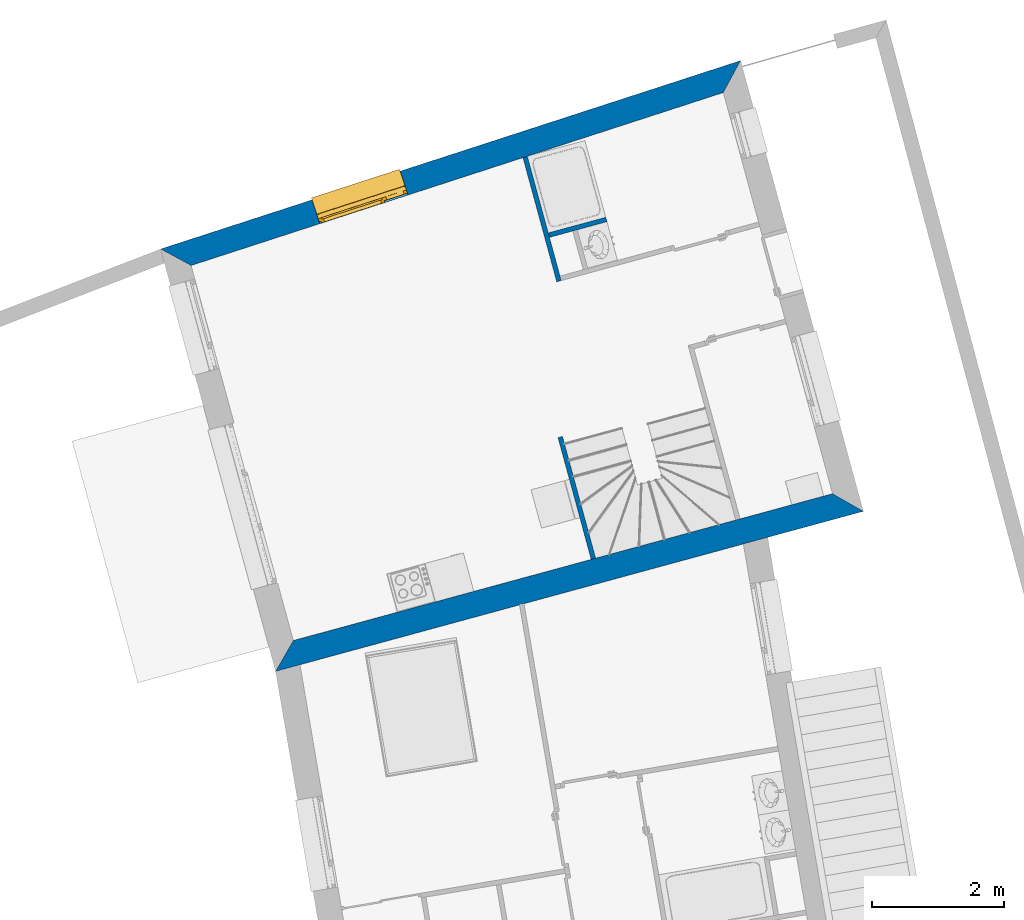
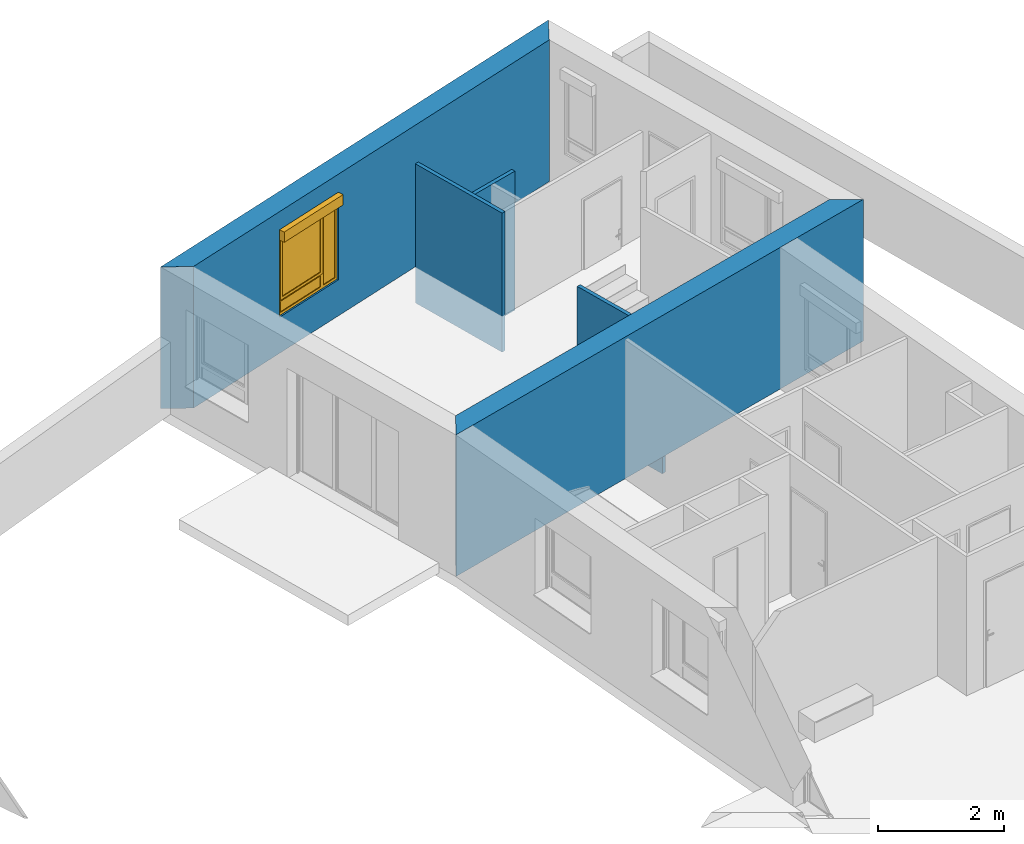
# One storey, part 94 of 195: 5 walls, 1 window, 1 opening.
"""IFC2X3 building model written with IfcOpenShell, lengths in metres."""

from ifc_helpers import new_model, entity, si_unit, converted_unit, derived_unit, money_unit, direction, frame, origin_with_axes, place, context, subcontext, project, spatial, polyline, outline, extrude, open_shell, faceted_brep, surface_model, source, transform, mapped, material, layer, layer_set, layer_usage, type_object, element, fill, save


model = new_model("IFC2X3")

# Units and contexts
model_context = context("Model", 3, precision=1e-05, world=origin_with_axes(), true_north=direction((0.0, 1.0)))
body_context = subcontext(model_context, "Body", "Model", "MODEL_VIEW")
ifc_project = project(units=[si_unit("LENGTHUNIT", "METRE"), si_unit("AREAUNIT", "SQUARE_METRE"), si_unit("VOLUMEUNIT", "CUBIC_METRE"), converted_unit("PLANEANGLEUNIT", "DEGREE", entity("IfcPlaneAngleMeasure", 0.0174532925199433), si_unit("PLANEANGLEUNIT", "RADIAN"), dimensions=[0, 0, 0, 0, 0, 0, 0]), money_unit("CHF"), converted_unit("TIMEUNIT", "Year", entity("IfcTimeMeasure", 31557600.0), si_unit("TIMEUNIT", "SECOND"), dimensions=[0, 0, 1, 0, 0, 0, 0]), si_unit("MASSUNIT", "GRAM", prefix="KILO"), si_unit("THERMODYNAMICTEMPERATUREUNIT", "DEGREE_CELSIUS"), si_unit("LUMINOUSINTENSITYUNIT", "LUMEN"), si_unit("ENERGYUNIT", "JOULE", prefix="MEGA"), derived_unit("THERMALCONDUCTANCEUNIT", [(si_unit("POWERUNIT", "WATT"), 1), (si_unit("LENGTHUNIT", "METRE"), -1), (si_unit("THERMODYNAMICTEMPERATUREUNIT", "KELVIN"), -1)]), derived_unit("SPECIFICHEATCAPACITYUNIT", [(si_unit("ENERGYUNIT", "JOULE"), 1), (si_unit("MASSUNIT", "GRAM", prefix="KILO"), -1), (si_unit("THERMODYNAMICTEMPERATUREUNIT", "KELVIN"), -1)]), derived_unit("MASSDENSITYUNIT", [(si_unit("MASSUNIT", "GRAM", prefix="KILO"), 1), (si_unit("VOLUMEUNIT", "CUBIC_METRE"), -1)])], contexts=[model_context])

# Site, building, storey
site_placement = place(None, origin_with_axes())
site = spatial("IfcSite", under=ifc_project, at=site_placement, Name="Site", CompositionType="ELEMENT")
building_placement = place(site_placement, origin_with_axes())
building = spatial("IfcBuilding", under=site, at=building_placement, Name="Bâtiment", CompositionType="ELEMENT")
storey_placement = place(building_placement, origin_with_axes())
storey = spatial("IfcBuildingStorey", under=building, at=storey_placement, Name="rdc", CompositionType="ELEMENT", Elevation=0.0)

# Walls
ifc_material_1 = material(Name="Hachure solide 268963992")
ifc_layer_1 = layer(ifc_material_1, 0.07, ventilated="UNKNOWN")
ifc_layer_set_1 = layer_set([ifc_layer_1], Name="Cloison 70 0826278243")
ifc_layer_usage_1 = layer_usage(ifc_layer_set_1, "AXIS2", "POSITIVE", 0.0)
wall_type_1 = type_object("IfcWallType", Name="Cloison 70 0826278243 70", PredefinedType="NOTDEFINED")
wall_1_placement = place(storey_placement, frame((9584.819619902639, -1016.182497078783, 57.0), z_axis=(0.0, 0.0, 1.0), x_axis=(-0.9648682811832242, -0.2627340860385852, 0.0)))
element("IfcWallStandardCase", 1, at=wall_1_placement, inside=storey, type_object=wall_type_1, material=ifc_layer_usage_1, Name="Mur-149", context=body_context, shape_type="SweptSolid", body=[
    extrude(outline(polyline([(0.0, 0.0), (0.8999999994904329, 0.0), (0.8999999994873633, 0.06999999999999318), (0.0, 0.06999999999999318), (0.0, 0.0)])), origin_with_axes(), (0.0, 0.0, 1.0), 2.7),
])
ifc_layer_usage_2 = layer_usage(ifc_layer_set_1, "AXIS2", "POSITIVE", 0.0)
wall_2_placement = place(storey_placement, frame((9584.147292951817, -1017.138951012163, 57.0), z_axis=(0.0, 0.0, 1.0), x_axis=(-0.2627340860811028, 0.9648682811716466, 0.0)))
element("IfcWallStandardCase", 2, at=wall_2_placement, inside=storey, type_object=wall_type_1, material=ifc_layer_usage_2, Name="Mur-149", context=body_context, shape_type="SweptSolid", body=[
    extrude(outline(polyline([(0.0, 0.0), (1.946208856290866, 0.0), (1.942824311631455, 0.07000000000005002), (0.0, 0.07000000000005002), (0.0, 0.0)])), origin_with_axes(), (0.0, 0.0, 1.0), 2.7),
])
ifc_layer_usage_3 = layer_usage(ifc_layer_set_1, "AXIS2", "NEGATIVE", 0.0)
wall_3_placement = place(storey_placement, frame((9584.166345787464, -1019.492598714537, 57.0), z_axis=(0.0, 0.0, 1.0), x_axis=(0.2627340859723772, -0.9648682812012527, 0.0)))
element("IfcWallStandardCase", 3, at=wall_3_placement, inside=storey, type_object=wall_type_1, material=ifc_layer_usage_3, Name="Mur-149", context=body_context, shape_type="SweptSolid", body=[
    extrude(outline(polyline([(0.0, -0.07000000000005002), (1.90668817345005, -0.07000000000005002), (1.906688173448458, 0.0), (0.0, 0.0), (0.0, -0.07000000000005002)])), origin_with_axes(), (0.0, 0.0, 1.0), 2.7),
])
ifc_material_2 = material(Name="Parpaing 312445824")
ifc_layer_2 = layer(ifc_material_2, 0.22, ventilated="UNKNOWN")
ifc_material_3 = material(Name="Isolant styromousse 301821074")
ifc_layer_3 = layer(ifc_material_3, 0.16, ventilated="UNKNOWN")
ifc_layer_set_2 = layer_set([ifc_layer_2, ifc_layer_3], Name="isol int 22+16 0836643197")
ifc_layer_usage_4 = layer_usage(ifc_layer_set_2, "AXIS2", "NEGATIVE", 0.0)
wall_type_2 = type_object("IfcWallType", Name="isol int 22+16 0836643197 380", PredefinedType="NOTDEFINED")
wall_4_placement = place(storey_placement, frame((9588.712435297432, -1020.624644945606, 57.7), z_axis=(0.0, 0.0, 1.0), x_axis=(-0.9648682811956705, -0.2627340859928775, 0.0)))
element("IfcWallStandardCase", 4, at=wall_4_placement, inside=storey, type_object=wall_type_2, material=ifc_layer_usage_4, Name="Mur-113", context=body_context, shape_type="SweptSolid", body=[
    extrude(outline(polyline([(0.379999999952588, -0.3799999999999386), (8.823564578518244, -0.3799999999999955), (9.203564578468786, 0.0), (0.0, 0.0), (0.379999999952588, -0.3799999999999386)])), origin_with_axes(), (0.0, 0.0, 1.0), 2.75),
])

# Wall, opening, window
ifc_layer_usage_5 = layer_usage(ifc_layer_set_2, "AXIS2", "POSITIVE", 0.0)
wall_5_placement = place(storey_placement, frame((9586.85805817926, -1013.814604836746, 57.7), z_axis=(0.0, 0.0, 1.0), x_axis=(-0.951053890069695, -0.3090250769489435, 0.0)))
wall_5 = element("IfcWallStandardCase", 5, at=wall_5_placement, inside=storey, type_object=wall_type_2, material=ifc_layer_usage_5, Name="Mur-113", context=body_context, shape_type="SweptSolid", body=[
    extrude(outline(polyline([(0.0, 0.0), (9.214316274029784, 0.0), (8.852245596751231, 0.3799999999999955), (0.3988171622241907, 0.3799999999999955), (0.0, 0.0)])), origin_with_axes(), (0.0, 0.0, 1.0), 2.75),
])
opening_placement = place(wall_5_placement, frame((6.108138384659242, 0.0, 0.7000000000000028), z_axis=(0.0, 0.0, 1.0), x_axis=(1.0, 0.0, 0.0)))
opening = element("IfcOpeningElement", 6, at=opening_placement, cuts=wall_5, Name="Fen-045", context=body_context, shape_type="Brep", body=[
    faceted_brep([(-0.6999999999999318, 0.2999999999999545, 1.5), (-0.7000000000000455, 0.4799999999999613, 1.5), (-0.6999999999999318, 3.089082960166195, 1.5), (-0.6999999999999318, 3.089082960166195, 0.0), (-0.6999999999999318, 0.2999999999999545, 0.0), (-0.7000000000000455, 0.2199999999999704, 1.5), (-0.7000000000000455, 0.2199999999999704, 1.700000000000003), (-0.7000000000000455, 0.4799999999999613, 1.700000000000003), (0.7000000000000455, 0.4800000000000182, 1.5), (0.7000000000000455, 3.089082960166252, 1.5), (0.7000000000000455, 3.089082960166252, 0.0), (0.7000000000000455, 0.2999999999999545, 0.0), (-0.6999999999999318, -2.709082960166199, 0.0), (-0.6999999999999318, -2.709082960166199, 1.5), (0.7000000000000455, 0.2200000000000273, 1.5), (0.7000000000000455, 0.2200000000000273, 1.700000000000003), (0.7000000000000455, 0.4800000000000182, 1.700000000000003), (0.7000000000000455, 0.2999999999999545, 1.5), (0.7000000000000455, -2.709082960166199, 0.0), (0.7000000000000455, -2.709082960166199, 1.5)], [[[0, 1, 2, 3, 4]], [[1, 0, 5, 6, 7]], [[1, 8, 9, 2]], [[9, 10, 3, 2]], [[11, 4, 3, 10]], [[5, 0, 4, 12, 13]], [[5, 14, 15, 6]], [[7, 6, 15, 16]], [[8, 1, 7, 16]], [[8, 17, 11, 10, 9]], [[4, 11, 18, 12]], [[13, 12, 18, 19]], [[14, 5, 13, 19]], [[17, 8, 16, 15, 14]], [[17, 14, 19, 18, 11]]]),
])
window_style = type_object("IfcWindowStyle", Name="Fenêtre variable 27", ConstructionType="NOTDEFINED", OperationType="TRIPLE_PANEL_LEFT", ParameterTakesPrecedence=False, Sizeable=False)
shared_shape = source(origin_with_axes(), body_context, "Body", "SurfaceModel", [
    surface_model("IfcShellBasedSurfaceModel", [(0.7, -0.05100000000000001, 0.05), (-0.7, -0.05100000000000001, 0.05000000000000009), (-0.7, -0.05100000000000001, 0.04000000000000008), (0.7, -0.05100000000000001, 0.04), (-0.7, -0.3799999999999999, 0.02900000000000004), (0.7, -0.3799999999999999, 0.02899999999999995), (-0.7, -0.3799999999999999, 0.00900000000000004), (0.7, -0.3799999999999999, 0.008999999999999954), (-0.7, -0.3699999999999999, 0.01900000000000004), (0.7, -0.3699999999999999, 0.01899999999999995)], [open_shell([[[0, 1, 2, 3]], [[3, 2, 4, 5]], [[5, 4, 6, 7]], [[7, 6, 8, 9]]])]),
    faceted_brep([(0.7, -0.13, 1.7), (0.7, 0.13, 1.7), (0.697, 0.13, 1.7), (0.697, -0.13, 1.7), (0.7, -0.13, 1.5), (0.7, 0.13, 1.5), (0.697, 0.13, 1.5), (0.697, -0.13, 1.5)], [[[0, 1, 2, 3]], [[0, 4, 5, 1]], [[1, 5, 6, 2]], [[3, 2, 6, 7]], [[4, 0, 3, 7]], [[5, 4, 7, 6]]]),
    faceted_brep([(-0.6970000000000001, -0.1299999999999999, 1.7), (-0.6970000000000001, 0.1300000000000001, 1.7), (-0.7000000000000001, 0.1300000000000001, 1.7), (-0.7000000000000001, -0.1299999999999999, 1.7), (-0.6970000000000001, -0.1299999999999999, 1.5), (-0.6970000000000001, 0.1300000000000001, 1.5), (-0.7000000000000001, 0.1300000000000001, 1.5), (-0.7000000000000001, -0.1299999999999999, 1.5)], [[[0, 1, 2, 3]], [[0, 4, 5, 1]], [[1, 5, 6, 2]], [[3, 2, 6, 7]], [[4, 0, 3, 7]], [[5, 4, 7, 6]]]),
    faceted_brep([(0.697, -0.13, 1.5), (0.697, -0.13, 1.7), (-0.697, -0.1299999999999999, 1.7), (-0.697, -0.1299999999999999, 1.5), (0.697, -0.127, 1.5), (0.697, -0.127, 1.697), (0.697, 0.127, 1.697), (0.697, 0.127, 1.503), (0.697, -0.108, 1.503), (0.697, -0.108, 1.5), (0.697, 0.13, 1.5), (0.697, 0.13, 1.7), (-0.697, 0.1300000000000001, 1.7), (-0.697, 0.1300000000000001, 1.5), (-0.697, -0.1079999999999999, 1.5), (-0.697, -0.1079999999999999, 1.503), (-0.697, 0.1270000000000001, 1.503), (-0.697, 0.1270000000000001, 1.697), (-0.697, -0.1269999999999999, 1.697), (-0.697, -0.1269999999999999, 1.5)], [[[0, 1, 2, 3]], [[0, 4, 5, 6, 7, 8, 9, 10, 11, 1]], [[1, 11, 12, 2]], [[3, 2, 12, 13, 14, 15, 16, 17, 18, 19]], [[4, 0, 3, 19]], [[5, 4, 19, 18]], [[6, 5, 18, 17]], [[7, 6, 17, 16]], [[8, 7, 16, 15]], [[9, 8, 15, 14]], [[10, 9, 14, 13]], [[11, 10, 13, 12]]]),
    faceted_brep([(0.694, -0.08075423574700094, 1.585760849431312), (0.694, -0.07705479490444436, 1.571954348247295), (0.694, -0.07101408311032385, 1.559), (0.694, -0.06281564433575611, 1.547291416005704), (0.694, -0.05270858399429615, 1.537184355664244), (0.694, -0.04099999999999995, 1.528985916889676), (0.694, -0.02804565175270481, 1.522945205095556), (0.694, -0.01423915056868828, 1.519245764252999), (0.694, 0.0, 1.518), (0.694, 0.01423915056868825, 1.519245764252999), (0.694, 0.02804565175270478, 1.522945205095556), (0.694, 0.04099999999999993, 1.528985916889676), (0.694, 0.05270858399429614, 1.537184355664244), (0.694, 0.06281564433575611, 1.547291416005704), (0.694, 0.07101408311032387, 1.559), (0.694, 0.07705479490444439, 1.571954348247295), (0.694, 0.08075423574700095, 1.585760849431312), (0.694, 0.0819999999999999, 1.6), (0.694, 0.08075423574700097, 1.614239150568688), (0.694, 0.0770547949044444, 1.628045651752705), (0.694, 0.07101408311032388, 1.641), (0.694, 0.06281564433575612, 1.652708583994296), (0.694, 0.05270858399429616, 1.662815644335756), (0.694, 0.04099999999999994, 1.671014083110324), (0.694, 0.02804565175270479, 1.677054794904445), (0.694, 0.01423915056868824, 1.680754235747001), (0.694, 0.0, 1.682), (0.694, -0.01423915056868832, 1.680754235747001), (0.694, -0.02804565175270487, 1.677054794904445), (0.694, -0.04100000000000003, 1.671014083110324), (0.694, -0.05270858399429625, 1.662815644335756), (0.694, -0.06281564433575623, 1.652708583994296), (0.694, -0.07101408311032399, 1.641), (0.694, -0.07705479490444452, 1.628045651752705), (0.694, -0.0807542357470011, 1.614239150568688), (0.694, -0.08200000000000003, 1.6), (-0.694, -0.08075423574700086, 1.585760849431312), (-0.694, -0.07705479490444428, 1.571954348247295), (-0.694, -0.07101408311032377, 1.559), (-0.694, -0.06281564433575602, 1.547291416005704), (-0.694, -0.05270858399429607, 1.537184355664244), (-0.694, -0.04099999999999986, 1.528985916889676), (-0.694, -0.02804565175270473, 1.522945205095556), (-0.694, -0.0142391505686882, 1.519245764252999), (-0.694, 0.0, 1.518), (-0.694, 0.01423915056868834, 1.519245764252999), (-0.694, 0.02804565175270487, 1.522945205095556), (-0.694, 0.04100000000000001, 1.528985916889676), (-0.694, 0.05270858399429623, 1.537184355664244), (-0.694, 0.06281564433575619, 1.547291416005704), (-0.694, 0.07101408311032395, 1.559), (-0.694, 0.07705479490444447, 1.571954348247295), (-0.694, 0.08075423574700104, 1.585760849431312), (-0.694, 0.08199999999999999, 1.6), (-0.694, 0.08075423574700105, 1.614239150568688), (-0.694, 0.07705479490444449, 1.628045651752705), (-0.694, 0.07101408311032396, 1.641), (-0.694, 0.0628156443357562, 1.652708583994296), (-0.694, 0.05270858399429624, 1.662815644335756), (-0.694, 0.04100000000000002, 1.671014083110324), (-0.694, 0.02804565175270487, 1.677054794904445), (-0.694, 0.01423915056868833, 1.680754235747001), (-0.694, 0.0, 1.682), (-0.694, -0.01423915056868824, 1.680754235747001), (-0.694, -0.02804565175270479, 1.677054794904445), (-0.694, -0.04099999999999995, 1.671014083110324), (-0.694, -0.05270858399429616, 1.662815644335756), (-0.694, -0.06281564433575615, 1.652708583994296), (-0.694, -0.07101408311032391, 1.641), (-0.694, -0.07705479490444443, 1.628045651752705), (-0.694, -0.08075423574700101, 1.614239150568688), (-0.694, -0.08199999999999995, 1.6)], [[[0, 1, 2, 3, 4, 5, 6, 7, 8, 9, 10, 11, 12, 13, 14, 15, 16, 17, 18, 19, 20, 21, 22, 23, 24, 25, 26, 27, 28, 29, 30, 31, 32, 33, 34, 35]], [[1, 0, 36, 37]], [[2, 1, 37, 38]], [[3, 2, 38, 39]], [[4, 3, 39, 40]], [[5, 4, 40, 41]], [[6, 5, 41, 42]], [[7, 6, 42, 43]], [[8, 7, 43, 44]], [[9, 8, 44, 45]], [[10, 9, 45, 46]], [[11, 10, 46, 47]], [[12, 11, 47, 48]], [[13, 12, 48, 49]], [[14, 13, 49, 50]], [[15, 14, 50, 51]], [[16, 15, 51, 52]], [[17, 16, 52, 53]], [[18, 17, 53, 54]], [[19, 18, 54, 55]], [[20, 19, 55, 56]], [[21, 20, 56, 57]], [[22, 21, 57, 58]], [[23, 22, 58, 59]], [[24, 23, 59, 60]], [[25, 24, 60, 61]], [[26, 25, 61, 62]], [[27, 26, 62, 63]], [[28, 27, 63, 64]], [[29, 28, 64, 65]], [[30, 29, 65, 66]], [[31, 30, 66, 67]], [[32, 31, 67, 68]], [[33, 32, 68, 69]], [[34, 33, 69, 70]], [[35, 34, 70, 71]], [[0, 35, 71, 36]], [[36, 71, 70, 69, 68, 67, 66, 65, 64, 63, 62, 61, 60, 59, 58, 57, 56, 55, 54, 53, 52, 51, 50, 49, 48, 47, 46, 45, 44, 43, 42, 41, 40, 39, 38, 37]]]),
    faceted_brep([(-0.7, -0.105, 0.03), (-0.7, -0.13, 0.03), (-0.7, -0.1299999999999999, 1.5), (-0.7, -0.1049999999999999, 1.5), (-0.6749999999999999, -0.105, 0.03), (-0.6749999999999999, -0.108, 0.03), (-0.697, -0.108, 0.03), (-0.697, -0.127, 0.03), (-0.6749999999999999, -0.127, 0.03), (-0.6749999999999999, -0.13, 0.03), (-0.6749999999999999, -0.1299999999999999, 1.5), (-0.6749999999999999, -0.1269999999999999, 1.5), (-0.697, -0.1269999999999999, 1.5), (-0.697, -0.1079999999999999, 1.5), (-0.6749999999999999, -0.1079999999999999, 1.5), (-0.6749999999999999, -0.1049999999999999, 1.5)], [[[0, 1, 2, 3]], [[0, 4, 5, 6, 7, 8, 9, 1]], [[1, 9, 10, 2]], [[3, 2, 10, 11, 12, 13, 14, 15]], [[4, 0, 3, 15]], [[5, 4, 15, 14]], [[6, 5, 14, 13]], [[7, 6, 13, 12]], [[8, 7, 12, 11]], [[9, 8, 11, 10]]]),
    faceted_brep([(0.7, -0.105, 0.03), (0.7, -0.1049999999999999, 1.5), (0.7, -0.1299999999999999, 1.5), (0.7, -0.13, 0.03), (0.6749999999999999, -0.105, 0.03), (0.6749999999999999, -0.1049999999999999, 1.5), (0.6749999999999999, -0.1079999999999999, 1.5), (0.697, -0.1079999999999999, 1.5), (0.697, -0.1269999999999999, 1.5), (0.6749999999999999, -0.1269999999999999, 1.5), (0.6749999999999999, -0.1299999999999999, 1.5), (0.6749999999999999, -0.13, 0.03), (0.6749999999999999, -0.127, 0.03), (0.697, -0.127, 0.03), (0.697, -0.108, 0.03), (0.6749999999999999, -0.108, 0.03)], [[[0, 1, 2, 3]], [[4, 5, 1, 0]], [[1, 5, 6, 7, 8, 9, 10, 2]], [[3, 2, 10, 11]], [[0, 3, 11, 12, 13, 14, 15, 4]], [[15, 6, 5, 4]], [[14, 7, 6, 15]], [[13, 8, 7, 14]], [[12, 9, 8, 13]], [[11, 10, 9, 12]]]),
    surface_model("IfcShellBasedSurfaceModel", [(0.697, -0.115, 1.6), (-0.697, -0.1149999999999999, 1.6), (-0.697, -0.12, 1.6), (0.697, -0.12, 1.6), (0.697, -0.115, 1.6), (0.697, -0.12, 1.6), (-0.697, -0.1199999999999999, 1.6), (-0.697, -0.1149999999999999, 1.6)], [open_shell([[[0, 1, 2, 3]], [[4, 5, 6, 7]]])]),
    faceted_brep([(0.697, -0.115, 1.6), (0.697, -0.1166666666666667, 1.583333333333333), (-0.697, -0.1166666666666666, 1.583333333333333), (-0.697, -0.1149999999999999, 1.6), (0.697, -0.12, 1.6), (0.697, -0.1216666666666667, 1.583333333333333), (0.697, -0.1216666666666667, 1.566666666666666), (0.697, -0.12, 1.55), (0.697, -0.115, 1.55), (0.697, -0.1166666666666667, 1.566666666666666), (-0.697, -0.1166666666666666, 1.566666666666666), (-0.697, -0.1149999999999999, 1.55), (-0.697, -0.1199999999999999, 1.55), (-0.697, -0.1216666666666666, 1.566666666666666), (-0.697, -0.1216666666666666, 1.583333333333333), (-0.697, -0.1199999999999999, 1.6)], [[[0, 1, 2, 3]], [[0, 4, 5, 6, 7, 8, 9, 1]], [[1, 9, 10, 2]], [[3, 2, 10, 11, 12, 13, 14, 15]], [[4, 0, 3, 15]], [[5, 4, 15, 14]], [[6, 5, 14, 13]], [[7, 6, 13, 12]], [[8, 7, 12, 11]], [[9, 8, 11, 10]]]),
    faceted_brep([(0.697, -0.115, 1.55), (0.697, -0.1166666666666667, 1.533333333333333), (-0.697, -0.1166666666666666, 1.533333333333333), (-0.697, -0.1149999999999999, 1.55), (0.697, -0.12, 1.55), (0.697, -0.1216666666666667, 1.533333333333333), (0.697, -0.1216666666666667, 1.516666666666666), (0.697, -0.12, 1.5), (0.697, -0.115, 1.5), (0.697, -0.1166666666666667, 1.516666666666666), (-0.697, -0.1166666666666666, 1.516666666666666), (-0.697, -0.1149999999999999, 1.5), (-0.697, -0.1199999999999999, 1.5), (-0.697, -0.1216666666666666, 1.516666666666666), (-0.697, -0.1216666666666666, 1.533333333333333), (-0.697, -0.1199999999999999, 1.55)], [[[0, 1, 2, 3]], [[0, 4, 5, 6, 7, 8, 9, 1]], [[1, 9, 10, 2]], [[3, 2, 10, 11, 12, 13, 14, 15]], [[4, 0, 3, 15]], [[5, 4, 15, 14]], [[6, 5, 14, 13]], [[7, 6, 13, 12]], [[8, 7, 12, 11]], [[9, 8, 11, 10]]]),
    faceted_brep([(0.6749999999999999, 0.0, 1.45), (0.6749999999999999, -0.02500000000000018, 1.45), (0.6499999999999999, -0.02500000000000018, 1.45), (0.6499999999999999, -0.05000000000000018, 1.45), (0.7, -0.05000000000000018, 1.45), (0.7, 0.0, 1.45), (0.6749999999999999, 0.0, 0.3099999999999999), (0.6749999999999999, -0.02500000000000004, 0.3099999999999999), (0.6499999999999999, -0.02500000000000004, 0.335), (0.6499999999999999, -0.02500000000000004, 0.3099999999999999), (0.6499999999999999, -0.05000000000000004, 0.335), (0.6499999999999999, -0.05000000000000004, 0.265), (0.6499999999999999, -0.05000000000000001, 0.05000000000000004), (0.7, -0.05000000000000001, 0.05000000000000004), (0.7, 0.0, 0.05000000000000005), (0.6499999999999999, 0.0, 0.05000000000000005), (0.6499999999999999, 0.0, 0.265), (0.6499999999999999, 0.0, 0.3099999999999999)], [[[0, 1, 2, 3, 4, 5]], [[1, 0, 6, 7]], [[8, 2, 1, 7, 9]], [[2, 8, 10, 3]], [[10, 11, 12, 13, 4, 3]], [[5, 4, 13, 14]], [[6, 0, 5, 14, 15, 16, 17]], [[6, 17, 9, 7]], [[9, 17, 16, 11, 10, 8]], [[15, 12, 11, 16]], [[14, 13, 12, 15]]]),
    faceted_brep([(-0.3068894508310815, -0.02500000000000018, 1.45), (-0.3318894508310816, -0.02500000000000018, 1.45), (-0.3318894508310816, 0.0, 1.45), (-0.3768894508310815, 0.0, 1.45), (-0.3768894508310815, -0.05000000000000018, 1.45), (-0.3068894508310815, -0.05000000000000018, 1.45), (-0.3068894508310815, -0.02500000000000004, 0.335), (-0.3068894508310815, -0.02500000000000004, 0.3099999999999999), (-0.3318894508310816, -0.02500000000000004, 0.3099999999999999), (-0.3318894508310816, 0.0, 0.3099999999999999), (-0.3068894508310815, 0.0, 0.3099999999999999), (-0.3068894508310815, 0.0, 0.265), (-0.3068894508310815, 0.0, 0.05000000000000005), (-0.3768894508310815, 0.0, 0.05000000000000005), (-0.3768894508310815, -0.05000000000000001, 0.05000000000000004), (-0.3068894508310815, -0.05000000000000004, 0.265), (-0.3068894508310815, -0.05000000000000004, 0.335), (-0.3068894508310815, -0.05000000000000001, 0.05000000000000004)], [[[0, 1, 2, 3, 4, 5]], [[1, 0, 6, 7, 8]], [[9, 2, 1, 8]], [[9, 10, 11, 12, 13, 3, 2]], [[13, 14, 4, 3]], [[15, 16, 5, 4, 14, 17]], [[6, 0, 5, 16]], [[7, 6, 16, 15, 11, 10]], [[10, 9, 8, 7]], [[11, 15, 17, 12]], [[12, 17, 14, 13]]]),
    faceted_brep([(0.6499999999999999, -0.02500000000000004, 0.335), (-0.3068894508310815, -0.02500000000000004, 0.335), (-0.3068894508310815, -0.05000000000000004, 0.335), (0.6499999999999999, -0.05000000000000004, 0.335), (-0.3068894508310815, -0.02500000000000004, 0.3099999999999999), (0.6499999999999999, -0.02500000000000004, 0.3099999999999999), (-0.3068894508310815, 0.0, 0.3099999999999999), (-0.3068894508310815, 0.0, 0.265), (-0.3068894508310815, -0.05000000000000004, 0.265), (0.6499999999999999, -0.05000000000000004, 0.265), (0.6499999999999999, 0.0, 0.265), (0.6499999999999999, 0.0, 0.3099999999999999)], [[[0, 1, 2, 3]], [[4, 1, 0, 5]], [[4, 6, 7, 8, 2, 1]], [[2, 8, 9, 3]], [[5, 0, 3, 9, 10, 11]], [[11, 6, 4, 5]], [[6, 11, 10, 7]], [[10, 9, 8, 7]]]),
    faceted_brep([(0.6749999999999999, 0.0, 1.45), (0.6749999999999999, 0.0, 1.475), (-0.3318894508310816, 0.0, 1.475), (-0.3318894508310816, 0.0, 1.45), (-0.3768894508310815, 0.0, 1.45), (-0.6499999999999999, 0.0, 1.45), (-0.7, 0.0, 1.45), (-0.7, 0.0, 1.5), (0.7, 0.0, 1.5), (0.7, 0.0, 1.45), (0.6749999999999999, -0.02500000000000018, 1.45), (0.6749999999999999, -0.02500000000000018, 1.475), (-0.3318894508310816, -0.02500000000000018, 1.475), (-0.3318894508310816, -0.02500000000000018, 1.45), (-0.3068894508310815, -0.02500000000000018, 1.45), (-0.3068894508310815, -0.05000000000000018, 1.45), (-0.3768894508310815, -0.05000000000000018, 1.45), (-0.6499999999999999, -0.05000000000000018, 1.45), (-0.7, -0.05000000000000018, 1.45), (-0.7, -0.05000000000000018, 1.5), (0.7, -0.05000000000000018, 1.5), (0.7, -0.05000000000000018, 1.45), (0.6499999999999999, -0.05000000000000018, 1.45), (0.6499999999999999, -0.02500000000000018, 1.45)], [[[0, 1, 2, 3, 4, 5, 6, 7, 8, 9]], [[1, 0, 10, 11]], [[2, 1, 11, 12]], [[3, 2, 12, 13]], [[13, 14, 15, 16, 4, 3]], [[4, 16, 17, 5]], [[5, 17, 18, 6]], [[6, 18, 19, 7]], [[7, 19, 20, 8]], [[8, 20, 21, 9]], [[10, 0, 9, 21, 22, 23]], [[14, 13, 12, 11, 10, 23]], [[14, 23, 22, 15]], [[16, 15, 22, 21, 20, 19, 18, 17]]]),
    faceted_brep([(-0.6499999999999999, -0.05000000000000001, 0.05), (-0.7, -0.05000000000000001, 0.05), (-0.7, 0.0, 0.05000000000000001), (-0.6499999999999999, 0.0, 0.05000000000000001), (-0.6499999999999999, -0.05000000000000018, 1.45), (-0.7, -0.05000000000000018, 1.45), (-0.7, 0.0, 1.45), (-0.6499999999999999, 0.0, 1.45)], [[[0, 1, 2, 3]], [[0, 4, 5, 1]], [[1, 5, 6, 2]], [[3, 2, 6, 7]], [[4, 0, 3, 7]], [[5, 4, 7, 6]]]),
    faceted_brep([(0.6499999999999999, -0.05000000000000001, 0.05), (0.7, -0.05000000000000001, 0.05), (0.7, 0.0, 0.05000000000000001), (0.6499999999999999, 0.0, 0.05000000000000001), (-0.3068894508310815, -0.05000000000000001, 0.05), (-0.3768894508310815, -0.05000000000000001, 0.05), (-0.6499999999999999, -0.05000000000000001, 0.05), (-0.7, -0.05000000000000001, 0.05), (-0.7, -0.05, 0.0), (0.7, -0.05, 0.0), (0.7, 0.0, 0.0), (-0.7, 0.0, 0.0), (-0.7, 0.0, 0.05000000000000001), (-0.6499999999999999, 0.0, 0.05000000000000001), (-0.3768894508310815, 0.0, 0.05000000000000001), (-0.3068894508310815, 0.0, 0.05000000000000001)], [[[0, 1, 2, 3]], [[0, 4, 5, 6, 7, 8, 9, 1]], [[1, 9, 10, 2]], [[3, 2, 10, 11, 12, 13, 14, 15]], [[4, 0, 3, 15]], [[5, 4, 15, 14]], [[6, 5, 14, 13]], [[7, 6, 13, 12]], [[8, 7, 12, 11]], [[9, 8, 11, 10]]]),
    faceted_brep([(0.625, -0.02500000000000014, 1.425), (0.6749999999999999, -0.02500000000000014, 1.425), (0.6749999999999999, 0.02499999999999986, 1.425), (0.625, 0.02499999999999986, 1.425), (0.625, -0.02500000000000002, 0.3599999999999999), (0.6749999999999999, -0.02500000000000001, 0.3599999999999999), (0.6749999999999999, 0.02499999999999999, 0.3599999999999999), (0.625, 0.02499999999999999, 0.3599999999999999)], [[[0, 1, 2, 3]], [[0, 4, 5, 1]], [[1, 5, 6, 2]], [[3, 2, 6, 7]], [[4, 0, 3, 7]], [[5, 4, 7, 6]]]),
    faceted_brep([(-0.2818894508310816, -0.02500000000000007, 0.3599999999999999), (-0.3318894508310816, -0.02500000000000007, 0.3599999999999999), (-0.3318894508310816, 0.02499999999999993, 0.3599999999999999), (-0.2818894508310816, 0.02499999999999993, 0.3599999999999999), (-0.2818894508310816, -0.0250000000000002, 1.425), (-0.3318894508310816, -0.0250000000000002, 1.425), (-0.3318894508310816, 0.0249999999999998, 1.425), (-0.2818894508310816, 0.0249999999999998, 1.425)], [[[0, 1, 2, 3]], [[0, 4, 5, 1]], [[1, 5, 6, 2]], [[3, 2, 6, 7]], [[4, 0, 3, 7]], [[5, 4, 7, 6]]]),
    faceted_brep([(-0.3318894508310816, -0.02500000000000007, 0.3099999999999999), (-0.3318894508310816, -0.02500000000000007, 0.3599999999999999), (-0.3318894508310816, 0.02499999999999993, 0.3599999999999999), (-0.3318894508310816, 0.02499999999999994, 0.3099999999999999), (0.6749999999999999, -0.025, 0.3099999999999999), (0.6749999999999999, -0.02500000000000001, 0.3599999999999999), (0.625, -0.02500000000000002, 0.3599999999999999), (-0.2818894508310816, -0.02500000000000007, 0.3599999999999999), (-0.2818894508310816, 0.02499999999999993, 0.3599999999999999), (0.625, 0.02499999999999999, 0.3599999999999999), (0.6749999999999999, 0.02499999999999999, 0.3599999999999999), (0.6749999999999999, 0.02499999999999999, 0.3099999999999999)], [[[0, 1, 2, 3]], [[0, 4, 5, 6, 7, 1]], [[1, 7, 8, 2]], [[3, 2, 8, 9, 10, 11]], [[4, 0, 3, 11]], [[5, 4, 11, 10]], [[6, 5, 10, 9]], [[7, 6, 9, 8]]]),
    faceted_brep([(0.6749999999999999, -0.02500000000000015, 1.475), (0.6749999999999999, -0.02500000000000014, 1.425), (0.6749999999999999, 0.02499999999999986, 1.425), (0.6749999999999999, 0.02499999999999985, 1.475), (-0.3318894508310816, -0.02500000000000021, 1.475), (-0.3318894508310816, -0.0250000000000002, 1.425), (-0.2818894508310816, -0.0250000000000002, 1.425), (0.625, -0.02500000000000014, 1.425), (0.625, 0.02499999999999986, 1.425), (-0.2818894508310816, 0.0249999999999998, 1.425), (-0.3318894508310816, 0.0249999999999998, 1.425), (-0.3318894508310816, 0.02499999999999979, 1.475)], [[[0, 1, 2, 3]], [[0, 4, 5, 6, 7, 1]], [[1, 7, 8, 2]], [[3, 2, 8, 9, 10, 11]], [[4, 0, 3, 11]], [[5, 4, 11, 10]], [[6, 5, 10, 9]], [[7, 6, 9, 8]]]),
    surface_model("IfcShellBasedSurfaceModel", [(0.625, -0.01000000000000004, 0.3599999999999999), (0.625, -0.01000000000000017, 1.425), (-0.2818894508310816, -0.01000000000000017, 1.425), (-0.2818894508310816, -0.01000000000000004, 0.3599999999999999)], [open_shell([[[0, 1, 2, 3]]])]),
    surface_model("IfcShellBasedSurfaceModel", [(0.625, 0.009999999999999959, 0.3599999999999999), (-0.2818894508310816, 0.009999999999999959, 0.3599999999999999), (-0.2818894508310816, 0.00999999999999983, 1.425), (0.625, 0.00999999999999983, 1.425)], [open_shell([[[0, 1, 2, 3]]])]),
    surface_model("IfcShellBasedSurfaceModel", [(-0.3768894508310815, -0.035, 0.05), (-0.3768894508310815, -0.03500000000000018, 1.45), (-0.65, -0.03500000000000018, 1.45), (-0.65, -0.035, 0.05)], [open_shell([[[0, 1, 2, 3]]])]),
    surface_model("IfcShellBasedSurfaceModel", [(-0.3768894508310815, -0.015, 0.05), (-0.65, -0.015, 0.05), (-0.65, -0.01500000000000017, 1.45), (-0.3768894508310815, -0.01500000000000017, 1.45)], [open_shell([[[0, 1, 2, 3]]])]),
    surface_model("IfcShellBasedSurfaceModel", [(0.6499999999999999, -0.035, 0.05), (0.6499999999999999, -0.03500000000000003, 0.265), (-0.3068894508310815, -0.03500000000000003, 0.265), (-0.3068894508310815, -0.035, 0.05)], [open_shell([[[0, 1, 2, 3]]])]),
    surface_model("IfcShellBasedSurfaceModel", [(0.6499999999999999, -0.015, 0.05), (-0.3068894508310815, -0.015, 0.05), (-0.3068894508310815, -0.01500000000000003, 0.265), (0.6499999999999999, -0.01500000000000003, 0.265)], [open_shell([[[0, 1, 2, 3]]])]),
])
window_placement = place(opening_placement, frame((-0.6999999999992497, 0.0, 0.0), z_axis=(0.0, 0.0, 1.0), x_axis=(1.0, 0.0, 0.0)))
window = element("IfcWindow", 7, at=window_placement, inside=storey, type_object=window_style, Name="Fen-045", OverallHeight=1.5, OverallWidth=1.4, context=body_context, shape_type="MappedRepresentation", body=[
    mapped(shared_shape, transform((0.7000000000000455, 0.3499999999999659, 0.0))),
])
fill(opening, window)

save(model, "model.ifc")
